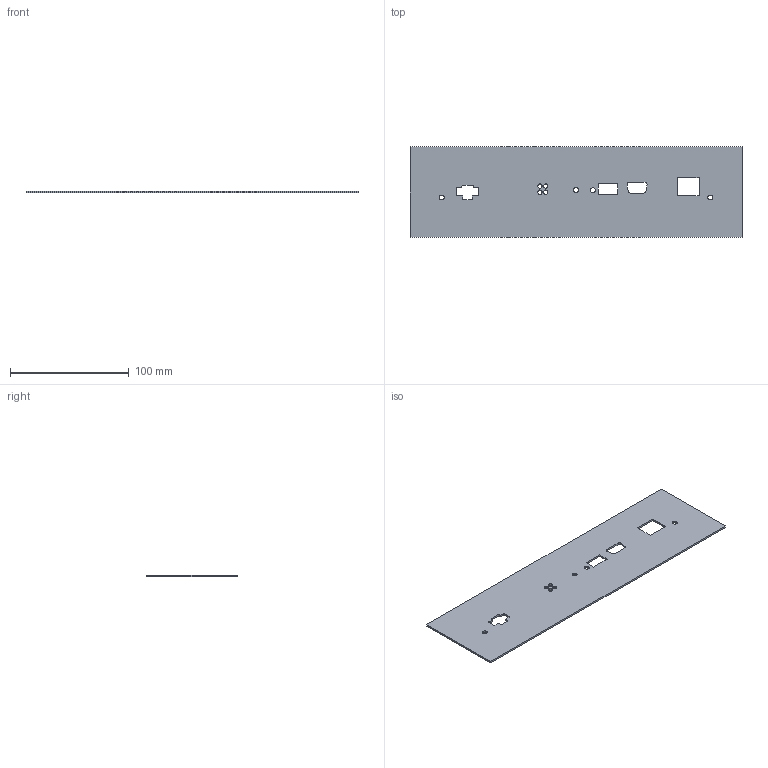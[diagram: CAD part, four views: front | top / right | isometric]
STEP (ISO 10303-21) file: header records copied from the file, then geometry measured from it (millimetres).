
FILE_DESCRIPTION((''),'2;1');
FILE_NAME('CD_PANEL_MOUNT_96XX','2009-10-05T',('tbeno'),(''),'PRO/ENGINEER BY PARAMETRIC TECHNOLOGY CORPORATION, 2006300','PRO/ENGINEER BY PARAMETRIC TECHNOLOGY CORPORATION, 2006300','');
FILE_SCHEMA(('CONFIG_CONTROL_DESIGN'));
Length unit declared in the file: inch
Products named in the file (1): CD_PANEL_MOUNT_96XX
Bounding box: 279.4 x 76.2 x 1.52 mm (x, y, z)
Volume: 31185.7 mm3; surface area: 42498.1 mm2
Topology: 1 solids, 1 shells, 58 faces, 168 edges, 112 vertices
Faces by surface type: plane 30, cylinder 28
Entity records: 2016 total; most frequent: DIRECTION 340, CARTESIAN_POINT 338, ORIENTED_EDGE 336, EDGE_CURVE 168, AXIS2_PLACEMENT_3D 114, VECTOR 112, LINE 112, VERTEX_POINT 112
